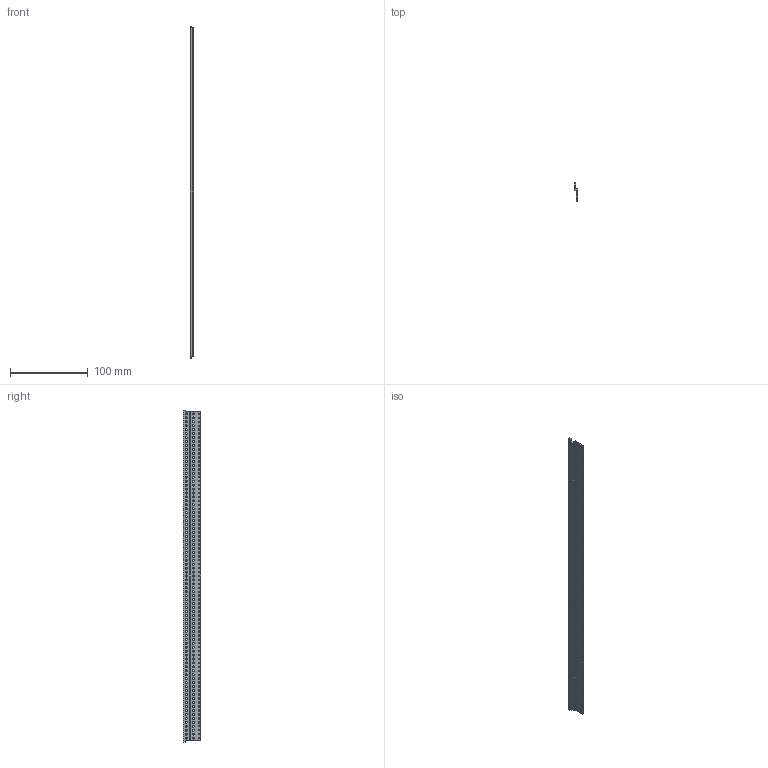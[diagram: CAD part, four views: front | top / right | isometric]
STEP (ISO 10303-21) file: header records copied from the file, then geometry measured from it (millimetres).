
FILE_DESCRIPTION(('STEP AP214'),'1');
FILE_NAME('30822089.stp','2019-03-12T18:02:37',('TraceParts'),('TraceParts S.A.'),'Spatial InterOp 3D',' ',' ');
FILE_SCHEMA(('automotive_design'));
Length unit declared in the file: millimetre
Products named in the file (1): 30822089
Bounding box: 5.1 x 22.6 x 426.72 mm (x, y, z)
Volume: 20422.1 mm3; surface area: 24972.1 mm2
Topology: 1 solids, 1 shells, 525 faces, 1569 edges, 1046 vertices
Faces by surface type: cylinder 508, plane 17
Entity records: 23520 total; most frequent: DIRECTION 3637, CARTESIAN_POINT 3141, ORIENTED_EDGE 3138, EDGE_CURVE 1569, AXIS2_PLACEMENT_3D 1542, VERTEX_POINT 1046, EDGE_LOOP 1023, CIRCLE 1016
